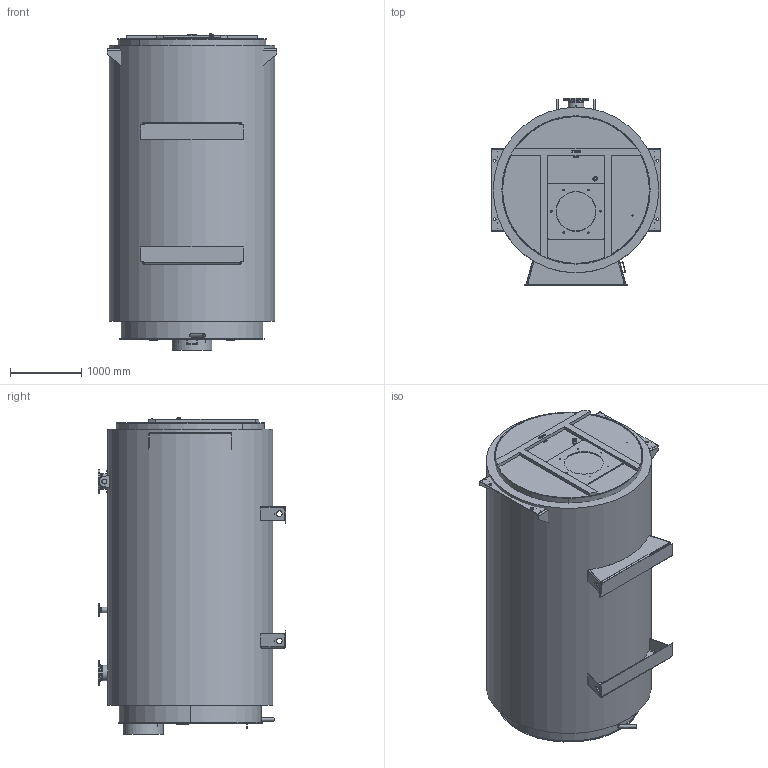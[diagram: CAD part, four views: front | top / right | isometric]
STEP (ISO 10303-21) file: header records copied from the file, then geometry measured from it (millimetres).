
FILE_DESCRIPTION(('TFLEX Exchange Step'),'2;1');
FILE_NAME('M22A029_7933624_T002.stp', '2024-08-01T12:30:53+03:00',('kort'),('Unknown organisation'),'TFLEX Exchange 2024.2','T-FLEX CAD','Unknown authorisation');
FILE_SCHEMA( ('AUTOMOTIVE_DESIGN { 1 0 10303 214 1 1 1 1 }') );
Length unit declared in the file: millimetre
Products named in the file (1): Nodes
Bounding box: 2380 x 2630 x 4440.64 mm (x, y, z)
Volume: 17624569720.8 mm3; surface area: 75083815.1 mm2
Topology: 110 solids, 110 shells, 1249 faces, 3093 edges, 2089 vertices
Faces by surface type: plane 623, cylinder 404, bspline 119, cone 74, torus 23, sphere 6
Full cylindrical faces by diameter (mm): 1 x16, 2.2 x4, 3.2 x4, 3.3 x4, 4 x4, 6.5 x4, 10 x9, 11.45 x1, 12 x12, 13 x4, 14 x4, 14.63 x6, 15.5 x1, 16 x10, 18 x8, 18.63 x2, 22 x30, 24 x4, 35 x3, 40 x2, 41.1 x1, 41.45 x1, 42 x4, 44.8 x1, 45 x4, 47.8 x1, 48 x1, 48.3 x1, 67.1 x2, 70 x2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
Entity records: 47550 total; most frequent: CARTESIAN_POINT 17177, ORIENTED_EDGE 6142, DIRECTION 6087, EDGE_CURVE 3071, AXIS2_PLACEMENT_3D 2249, VERTEX_POINT 2089, VECTOR 1589, LINE 1589
